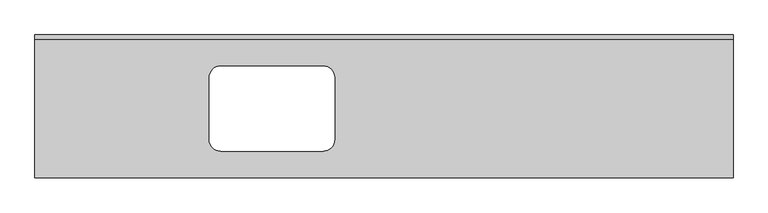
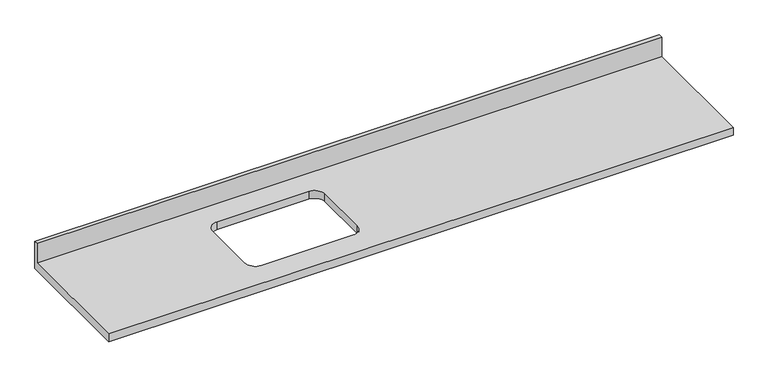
"""IFC4 building model written with IfcOpenShell, lengths in millimetres: furniture geometry, M_싱크대 개구부가 있는 작업대 상단 : 600mm 깊이."""

from ifc_helpers import new_model, si_unit, frame, origin, place, context, project, spatial, polyline, circle_curve, source, transform, mapped, element, save
from ifc_brep_helpers import plane_surface, revolved_surface, advanced_brep


def furniture_9ca80f25(model_context):
    return source(origin(), model_context, "Body", "AdvancedBrep", [
        advanced_brep(
        [(-1200.4622951, -630.0, 900.0), (1879.5377049, -630.0, 900.0), (1879.5377049, -19.05, 900.0), (-1200.4622951, -19.05, 900.0), (-380.7309725, -137.3, 900.0), (70.86775, -137.3, 900.0), (121.66775, -188.1, 900.0), (121.66775, -461.9, 900.0), (70.86775, -512.7, 900.0), (-380.7309725, -512.7, 900.0), (-431.5309725, -461.9, 900.0), (-431.5309725, -188.1, 900.0), (1879.5377049, 0.0, 860.0), (1879.5377049, -630.0, 860.0), (-1200.4622951, -630.0, 860.0), (-1200.4622951, 0.0, 860.0), (70.86775, -137.3, 860.0), (-380.7309725, -137.3, 860.0), (-431.5309725, -188.1, 860.0), (-431.5309725, -461.9, 860.0), (-380.7309725, -512.7, 860.0), (70.86775, -512.7, 860.0), (121.66775, -461.9, 860.0), (121.66775, -188.1, 860.0), (-1200.4622951, 0.0, 1001.6), (1879.5377049, 0.0, 1001.6), (-1200.4622951, -19.05, 1001.6), (1879.5377049, -19.05, 1001.6)],
        [
            (0, 1),
            (1, 2),
            (2, 3),
            (3, 0),
            (4, 5),
            (5, 6, circle_curve(frame((70.86775, -188.1, 900.0), z_axis=(0.0, 0.0, -1.0), x_axis=(1.0, 0.0, 0.0)), 50.8)),
            (6, 7),
            (7, 8, circle_curve(frame((70.86775, -461.9, 900.0), z_axis=(0.0, 0.0, -1.0), x_axis=(1.0, 0.0, 0.0)), 50.8)),
            (8, 9),
            (9, 10, circle_curve(frame((-380.7309725, -461.9, 900.0), z_axis=(0.0, 0.0, -1.0), x_axis=(1.0, 0.0, 0.0)), 50.8)),
            (10, 11),
            (11, 4, circle_curve(frame((-380.7309725, -188.1, 900.0), z_axis=(0.0, 0.0, -1.0), x_axis=(1.0, 0.0, 0.0)), 50.8)),
            (12, 13),
            (13, 14),
            (14, 15),
            (15, 12),
            (16, 17),
            (17, 18, circle_curve(frame((-380.7309725, -188.1, 860.0), z_axis=(0.0, 0.0, 1.0), x_axis=(1.0, 0.0, 0.0)), 50.8)),
            (18, 19),
            (19, 20, circle_curve(frame((-380.7309725, -461.9, 860.0), z_axis=(0.0, 0.0, 1.0), x_axis=(1.0, 0.0, 0.0)), 50.8)),
            (20, 21),
            (21, 22, circle_curve(frame((70.86775, -461.9, 860.0), z_axis=(0.0, 0.0, 1.0), x_axis=(1.0, 0.0, 0.0)), 50.8)),
            (22, 23),
            (23, 16, circle_curve(frame((70.86775, -188.1, 860.0), z_axis=(0.0, 0.0, 1.0), x_axis=(1.0, 0.0, 0.0)), 50.8)),
            (15, 24),
            (24, 25),
            (25, 12),
            (14, 0),
            (3, 26),
            (26, 24),
            (13, 1),
            (25, 27),
            (27, 2),
            (26, 27),
            (4, 17),
            (16, 5),
            (11, 18),
            (10, 19),
            (9, 20),
            (8, 21),
            (7, 22),
            (6, 23),
        ],
        [
            plane_surface(frame((-1200.4622951, 0.0, 900.0), z_axis=(0.0, 0.0, 1.0), x_axis=(-1.0, 0.0, 0.0))),
            plane_surface(frame((-1200.4622951, 0.0, 860.0), z_axis=(0.0, 0.0, -1.0), x_axis=(1.0, 0.0, 0.0))),
            plane_surface(frame((1879.5377049, 0.0, 900.0), z_axis=(0.0, 1.0, 0.0), x_axis=(0.0, 0.0, -1.0))),
            plane_surface(frame((-1200.4622951, 0.0, 900.0), z_axis=(-1.0, 0.0, 0.0), x_axis=(0.0, 0.0, -1.0))),
            plane_surface(frame((-1200.4622951, -630.0, 900.0), z_axis=(0.0, -1.0, 0.0), x_axis=(0.0, 0.0, -1.0))),
            plane_surface(frame((1879.5377049, -630.0, 900.0), z_axis=(1.0, 0.0, 0.0), x_axis=(0.0, 0.0, -1.0))),
            plane_surface(frame((-1200.4622951, 0.0, 1001.6), z_axis=(0.0, 0.0, 1.0), x_axis=(0.0, -1.0, 0.0))),
            plane_surface(frame((-1200.4622951, -19.05, 1001.6), z_axis=(0.0, -1.0, 0.0), x_axis=(0.0, 0.0, -1.0))),
            plane_surface(frame((70.86775, -137.3, 900.0), z_axis=(0.0, -1.0, 0.0), x_axis=(0.0, 0.0, -1.0))),
            revolved_surface(polyline([(-329.9309725, -188.1, 900.0), (-329.9309725, -188.1, 860.0)]), (-380.7309725, -188.1, 860.0), (0.0, 0.0, 1.0)),
            plane_surface(frame((-431.5309725, -188.1, 900.0), z_axis=(1.0, 0.0, 0.0), x_axis=(0.0, 0.0, -1.0))),
            revolved_surface(polyline([(-329.9309725, -461.9, 900.0), (-329.9309725, -461.9, 860.0)]), (-380.7309725, -461.9, 860.0), (0.0, 0.0, 1.0)),
            plane_surface(frame((-380.7309725, -512.7, 900.0), z_axis=(0.0, 1.0, 0.0), x_axis=(0.0, 0.0, -1.0))),
            revolved_surface(polyline([(121.66775, -461.9, 900.0), (121.66775, -461.9, 860.0)]), (70.86775, -461.9, 860.0), (0.0, 0.0, 1.0)),
            plane_surface(frame((121.66775, -461.9, 900.0), z_axis=(-1.0, 0.0, 0.0), x_axis=(0.0, 0.0, -1.0))),
            revolved_surface(polyline([(121.66775, -188.1, 900.0), (121.66775, -188.1, 860.0)]), (70.86775, -188.1, 860.0), (0.0, 0.0, 1.0)),
        ],
        [
            (0, [[1, 2, 3, 4], [5, 6, 7, 8, 9, 10, 11, 12]]),
            (1, [[13, 14, 15, 16], [17, 18, 19, 20, 21, 22, 23, 24]]),
            (2, [[-16, 25, 26, 27]]),
            (3, [[-15, 28, -4, 29, 30, -25]]),
            (4, [[-1, -28, -14, 31]]),
            (5, [[-13, -27, 32, 33, -2, -31]]),
            (6, [[-30, 34, -32, -26]]),
            (7, [[-34, -29, -3, -33]]),
            (8, [[35, -17, 36, -5]]),
            (9, [[-35, -12, 37, -18]]),
            (10, [[-37, -11, 38, -19]]),
            (11, [[-38, -10, 39, -20]]),
            (12, [[-39, -9, 40, -21]]),
            (13, [[-40, -8, 41, -22]]),
            (14, [[-41, -7, 42, -23]]),
            (15, [[-36, -24, -42, -6]]),
        ],
    ),
    ])


if __name__ == "__main__":
    model = new_model("IFC4")
    model_context = context("Model", 3, world=origin())
    ifc_project = project(units=[si_unit("LENGTHUNIT", "METRE", prefix="MILLI")], contexts=[model_context])
    site = spatial("IfcSite", under=ifc_project)
    building = spatial("IfcBuilding", under=site)
    placement = place(None, origin())
    furniture_shape = furniture_9ca80f25(model_context)
    element("IfcFurniture", 1, ObjectType="M_싱크대 개구부가 있는 작업대 상단 : 600mm 깊이", at=placement, inside=building, context=model_context, shape_type="MappedRepresentation", body=[
        mapped(furniture_shape, transform((0.0, 0.0, 0.0), x_axis=(1.0, 0.0, 0.0), y_axis=(0.0, 1.0, 0.0), z_axis=(0.0, 0.0, 1.0))),
    ])
    save(model, "model.ifc")
